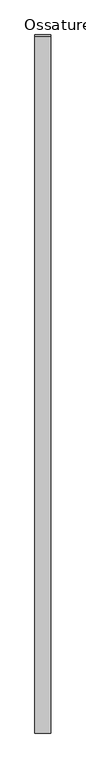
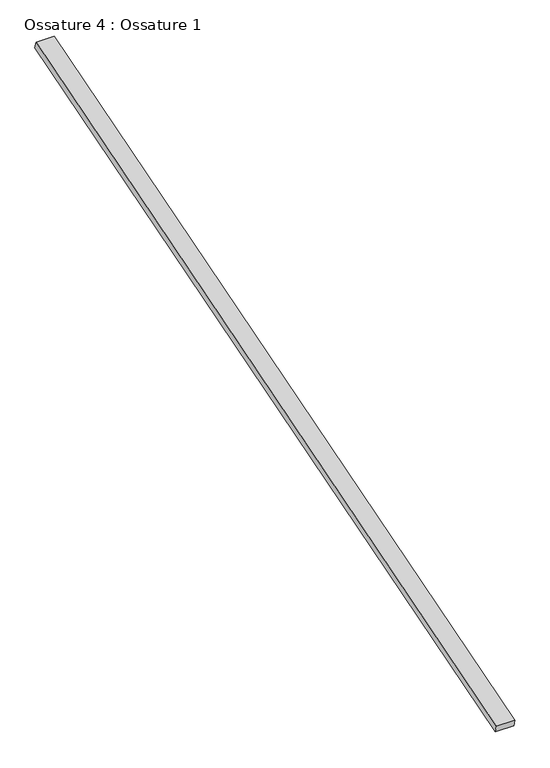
"""IFC4 building model written with IfcOpenShell, lengths in millimetres: beam geometry, Ossature 4 : Ossature 1."""

from ifc_helpers import new_model, si_unit, frame, origin, place, context, project, spatial, polyline, outline, extrude, source, transform, mapped, element, save


def ossature_4_ossature_1_9a9b650d(model_context):
    return source(origin(), model_context, "Body", "SweptSolid", [
        extrude(outline(polyline([(0.0, 0.0), (0.0, -4543.0299679), (-100.0, -4543.0299679), (-100.0, 0.0), (0.0, 0.0)])), frame((1266.8466393, -833.3913565, 8153.6336115), z_axis=(0.0, -0.28734788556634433, 0.9578262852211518), x_axis=(-1.0, 0.0, 0.0)), (0.0, 0.0, 1.0), 40.0),
    ])


if __name__ == "__main__":
    model = new_model("IFC4")
    model_context = context("Model", 3, world=origin())
    ifc_project = project(units=[si_unit("LENGTHUNIT", "METRE", prefix="MILLI")], contexts=[model_context])
    site = spatial("IfcSite", under=ifc_project)
    building = spatial("IfcBuilding", under=site)
    placement = place(None, origin())
    ossature_4_ossature_1_shape = ossature_4_ossature_1_9a9b650d(model_context)
    element("IfcBeam", 1, ObjectType="Ossature 4 : Ossature 1", at=placement, inside=building, context=model_context, shape_type="MappedRepresentation", body=[
        mapped(ossature_4_ossature_1_shape, transform((0.0, 0.0, 0.0), x_axis=(1.0, 0.0, 0.0), y_axis=(0.0, 1.0, 0.0), z_axis=(0.0, 0.0, 1.0))),
    ])
    save(model, "model.ifc")
